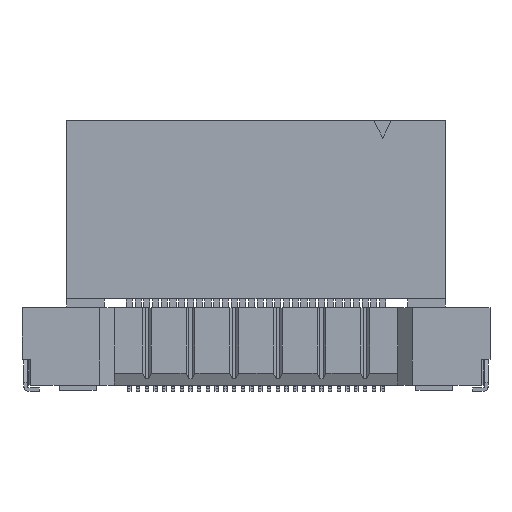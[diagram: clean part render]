
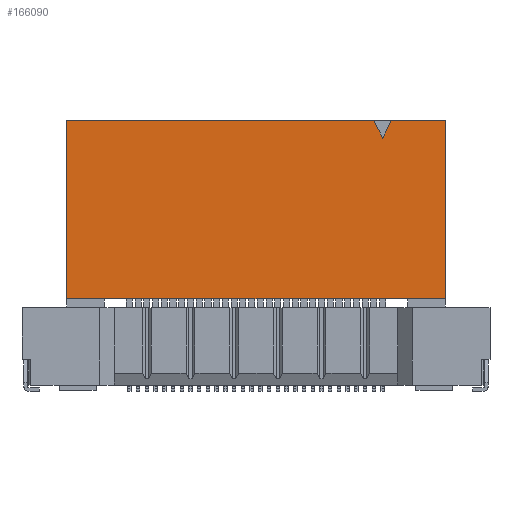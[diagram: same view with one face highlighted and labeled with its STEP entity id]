
A CAD part, front view. The second image highlights one B-rep face of the part: STEP entity #166090.
In plain terms, the highlighted planar face has unit normal (0, -1, 0).
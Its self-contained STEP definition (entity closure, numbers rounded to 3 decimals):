
#97050=CARTESIAN_POINT('',(-11.054,23.85,23.75));
#97060=VERTEX_POINT('',#97050);
#97090=CARTESIAN_POINT('',(-11.054,23.85,11.165));
#97100=DIRECTION('',(0.,0.,-1.));
#97110=VECTOR('',#97100,1.);
#97120=LINE('',#97090,#97110);
#97130=CARTESIAN_POINT('',(-11.054,23.85,13.55));
#97140=VERTEX_POINT('',#97130);
#97150=EDGE_CURVE('',#97060,#97140,#97120,.T.);
#165550=CARTESIAN_POINT('',(-9.704,23.85,13.55));
#165560=DIRECTION('',(0.,-1.,0.));
#165570=DIRECTION('',(0.,0.,1.));
#165580=AXIS2_PLACEMENT_3D('',#165550,#165560,#165570);
#165590=PLANE('',#165580);
#165600=CARTESIAN_POINT('',(-9.704,23.85,13.55));
#165610=DIRECTION('',(1.,0.,0.));
#165620=VECTOR('',#165610,1.);
#165630=LINE('',#165600,#165620);
#165640=CARTESIAN_POINT('',(10.646,23.85,13.55));
#165650=VERTEX_POINT('',#165640);
#165660=EDGE_CURVE('',#97140,#165650,#165630,.T.);
#165670=ORIENTED_EDGE('',*,*,#165660,.T.);
#165680=ORIENTED_EDGE('',*,*,#97150,.T.);
#165690=CARTESIAN_POINT('',(-9.704,23.85,23.75));
#165700=DIRECTION('',(1.,0.,0.));
#165710=VECTOR('',#165700,1.);
#165720=LINE('',#165690,#165710);
#165730=CARTESIAN_POINT('',(6.546,23.85,23.75));
#165740=VERTEX_POINT('',#165730);
#165750=EDGE_CURVE('',#97060,#165740,#165720,.T.);
#165760=ORIENTED_EDGE('',*,*,#165750,.F.);
#165770=CARTESIAN_POINT('',(12.838,23.85,11.165));
#165780=DIRECTION('',(-0.447,0.,0.894));
#165790=VECTOR('',#165780,1.);
#165800=LINE('',#165770,#165790);
#165810=CARTESIAN_POINT('',(7.046,23.85,22.75));
#165820=VERTEX_POINT('',#165810);
#165830=EDGE_CURVE('',#165820,#165740,#165800,.T.);
#165840=ORIENTED_EDGE('',*,*,#165830,.T.);
#165850=CARTESIAN_POINT('',(1.253,23.85,11.165));
#165860=DIRECTION('',(-0.447,0.,-0.894));
#165870=VECTOR('',#165860,1.);
#165880=LINE('',#165850,#165870);
#165890=CARTESIAN_POINT('',(7.546,23.85,23.75));
#165900=VERTEX_POINT('',#165890);
#165910=EDGE_CURVE('',#165900,#165820,#165880,.T.);
#165920=ORIENTED_EDGE('',*,*,#165910,.T.);
#165930=CARTESIAN_POINT('',(-9.704,23.85,23.75));
#165940=DIRECTION('',(1.,0.,0.));
#165950=VECTOR('',#165940,1.);
#165960=LINE('',#165930,#165950);
#165970=CARTESIAN_POINT('',(10.646,23.85,23.75));
#165980=VERTEX_POINT('',#165970);
#165990=EDGE_CURVE('',#165900,#165980,#165960,.T.);
#166000=ORIENTED_EDGE('',*,*,#165990,.F.);
#166010=CARTESIAN_POINT('',(10.646,23.85,11.165));
#166020=DIRECTION('',(0.,0.,-1.));
#166030=VECTOR('',#166020,1.);
#166040=LINE('',#166010,#166030);
#166050=EDGE_CURVE('',#165980,#165650,#166040,.T.);
#166060=ORIENTED_EDGE('',*,*,#166050,.F.);
#166070=EDGE_LOOP('',(#166060,#166000,#165920,#165840,#165760,#165680,
#165670));
#166080=FACE_OUTER_BOUND('',#166070,.T.);
#166090=ADVANCED_FACE('',(#166080),#165590,.T.);
